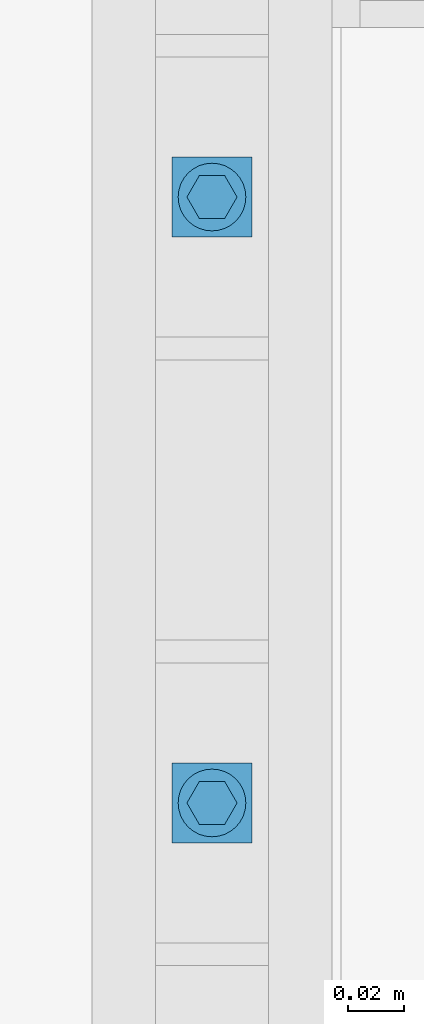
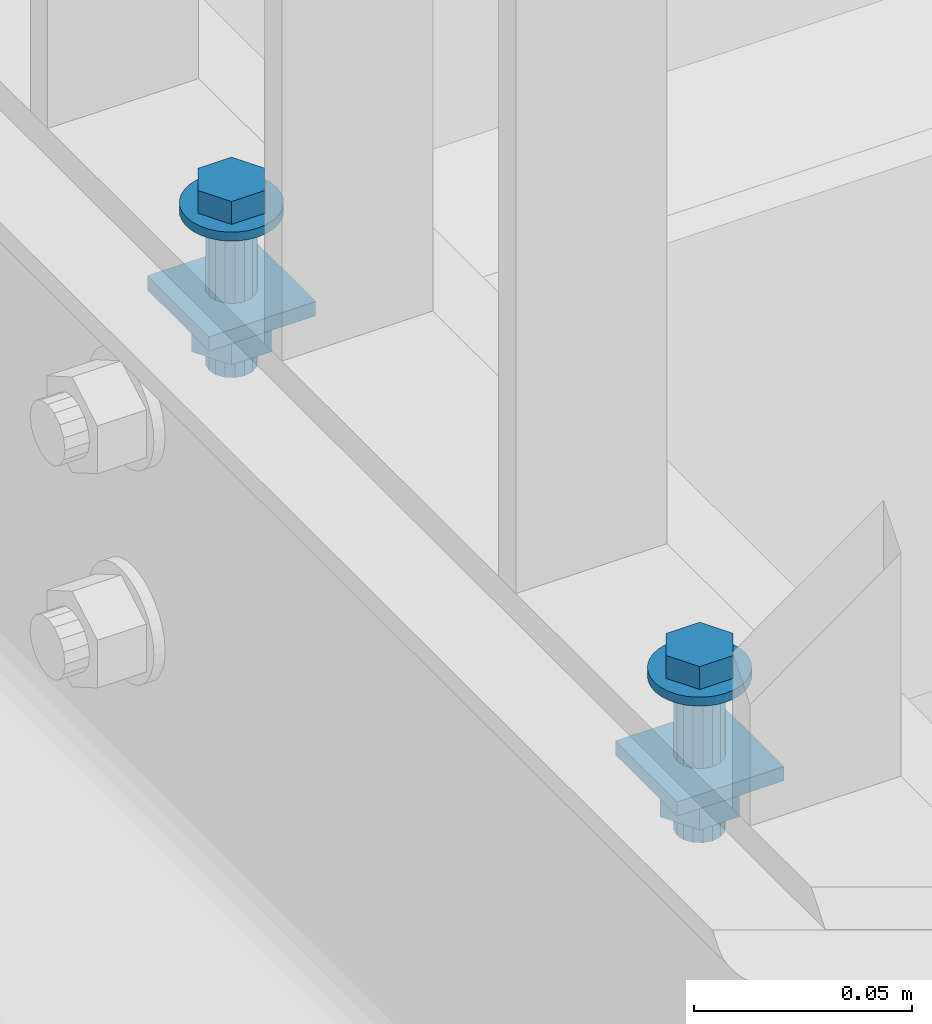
# One storey, part 65 of 145: 2 mechanical fasteners.
"""IFC2X3 building model written with IfcOpenShell, lengths in millimetres."""

from ifc_helpers import new_model, entity, si_unit, converted_unit, origin_with_axes, place, context, project, spatial, faceted_brep, element, save


model = new_model("IFC2X3")

# Units and contexts
model_context = context("Model", 3, precision=1e-09, world=origin_with_axes())
ifc_project = project(units=[si_unit("LENGTHUNIT", "METRE", prefix="MILLI"), si_unit("AREAUNIT", "SQUARE_METRE"), si_unit("VOLUMEUNIT", "CUBIC_METRE"), converted_unit("PLANEANGLEUNIT", "DEGREE", entity("IfcPlaneAngleMeasure", 0.01745329), si_unit("PLANEANGLEUNIT", "RADIAN"), dimensions=[0, 0, 0, 0, 0, 0, 0])], contexts=[model_context])

# Site, building, storey
site_placement = place(None, origin_with_axes())
site = spatial("IfcSite", under=ifc_project, at=site_placement, Name="BZ1 Grund- und Mittelschule 85716 Unterschlei?heim", CompositionType="ELEMENT")
building_placement = place(site_placement, origin_with_axes())
building = spatial("IfcBuilding", under=site, at=building_placement, Name="Struktur 1", CompositionType="ELEMENT")
storey_placement = place(building_placement, origin_with_axes())
storey = spatial("IfcBuildingStorey", under=building, at=storey_placement, Name="Default Storey", CompositionType="ELEMENT", Elevation=0.0)

# Mechanical fasteners
mechanical_fastener_1_placement = place(None, origin_with_axes())
element("IfcMechanicalFastener", 1, at=mechanical_fastener_1_placement, inside=storey, ObjectType="-", NominalDiameter=12.0, NominalLength=45.0, context=model_context, shape_type="Brep", body=[
    faceted_brep([(15728.34372732, -556.876484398, 3308.000000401), (15728.34372732, -556.876484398, 3310.500000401), (15726.002643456, -556.645907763, 3310.500000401), (15726.002643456, -556.645907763, 3308.000000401), (15723.751526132, -555.963038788, 3310.500000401), (15723.751526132, -555.963038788, 3308.000000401), (15721.676884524, -554.854119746, 3310.500000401), (15721.676884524, -554.854119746, 3308.000000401), (15719.858445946, -553.361765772, 3310.500000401), (15719.858445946, -553.361765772, 3308.000000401), (15718.366091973, -551.543327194, 3310.500000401), (15718.366091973, -551.543327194, 3308.000000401), (15717.25717293, -549.468685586, 3310.500000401), (15717.25717293, -549.468685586, 3308.000000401), (15716.574303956, -547.217568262, 3310.500000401), (15716.574303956, -547.217568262, 3308.000000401), (15716.34372732, -544.876484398, 3310.500000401), (15716.34372732, -544.876484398, 3308.000000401), (15716.574303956, -542.535400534, 3310.500000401), (15716.574303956, -542.535400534, 3308.000000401), (15717.25717293, -540.28428321, 3310.500000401), (15717.25717293, -540.28428321, 3308.000000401), (15718.366091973, -538.209641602, 3310.500000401), (15718.366091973, -538.209641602, 3308.000000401), (15719.858445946, -536.391203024, 3310.500000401), (15719.858445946, -536.391203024, 3308.000000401), (15721.676884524, -534.89884905, 3310.500000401), (15721.676884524, -534.89884905, 3308.000000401), (15723.751526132, -533.789930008, 3310.500000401), (15723.751526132, -533.789930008, 3308.000000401), (15726.002643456, -533.107061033, 3310.500000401), (15726.002643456, -533.107061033, 3308.000000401), (15728.34372732, -532.876484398, 3310.500000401), (15728.34372732, -532.876484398, 3308.000000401), (15730.684811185, -533.107061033, 3310.500000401), (15730.684811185, -533.107061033, 3308.000000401), (15732.935928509, -533.789930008, 3310.500000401), (15732.935928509, -533.789930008, 3308.000000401), (15735.010570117, -534.89884905, 3310.500000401), (15735.010570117, -534.89884905, 3308.000000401), (15736.829008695, -536.391203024, 3310.500000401), (15736.829008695, -536.391203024, 3308.000000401), (15738.321362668, -538.209641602, 3310.500000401), (15738.321362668, -538.209641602, 3308.000000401), (15739.430281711, -540.28428321, 3310.500000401), (15739.430281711, -540.28428321, 3308.000000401), (15740.113150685, -542.535400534, 3310.500000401), (15740.113150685, -542.535400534, 3308.000000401), (15740.34372732, -544.876484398, 3310.500000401), (15740.34372732, -544.876484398, 3308.000000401), (15740.113150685, -547.217568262, 3310.500000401), (15740.113150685, -547.217568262, 3308.000000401), (15739.430281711, -549.468685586, 3310.500000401), (15739.430281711, -549.468685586, 3308.000000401), (15738.321362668, -551.543327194, 3310.500000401), (15738.321362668, -551.543327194, 3308.000000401), (15736.829008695, -553.361765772, 3310.500000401), (15736.829008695, -553.361765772, 3308.000000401), (15735.010570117, -554.854119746, 3310.500000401), (15735.010570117, -554.854119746, 3308.000000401), (15732.935928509, -555.963038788, 3310.500000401), (15732.935928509, -555.963038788, 3308.000000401), (15730.684811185, -556.645907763, 3310.500000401), (15730.684811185, -556.645907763, 3308.000000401)], [[[0, 1, 2, 3]], [[3, 2, 4, 5]], [[5, 4, 6, 7]], [[7, 6, 8, 9]], [[9, 8, 10, 11]], [[11, 10, 12, 13]], [[13, 12, 14, 15]], [[15, 14, 16, 17]], [[17, 16, 18, 19]], [[19, 18, 20, 21]], [[21, 20, 22, 23]], [[23, 22, 24, 25]], [[25, 24, 26, 27]], [[27, 26, 28, 29]], [[29, 28, 30, 31]], [[31, 30, 32, 33]], [[33, 32, 34, 35]], [[35, 34, 36, 37]], [[37, 36, 38, 39]], [[39, 38, 40, 41]], [[41, 40, 42, 43]], [[43, 42, 44, 45]], [[45, 44, 46, 47]], [[47, 46, 48, 49]], [[49, 48, 50, 51]], [[51, 50, 52, 53]], [[53, 52, 54, 55]], [[55, 54, 56, 57]], [[57, 56, 58, 59]], [[59, 58, 60, 61]], [[61, 60, 62, 63]], [[63, 62, 1, 0]], [[2, 1, 62, 60, 58, 56, 54, 52, 50, 48, 46, 44, 42, 40, 38, 36, 34, 32, 30, 28, 26, 24, 22, 20, 18, 16, 14, 12, 10, 8, 6, 4]], [[63, 0, 3, 5, 7, 9, 11, 13, 15, 17, 19, 21, 23, 25, 27, 29, 31, 33, 35, 37, 39, 41, 43, 45, 47, 49, 51, 53, 55, 57, 59, 61]]]),
    faceted_brep([(15723.90122732, -537.181848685, 3316.900000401), (15723.90122732, -537.181848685, 3310.500000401), (15719.45872732, -544.876484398, 3310.500000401), (15719.45872732, -544.876484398, 3316.900000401), (15723.90122732, -552.571120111, 3310.500000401), (15723.90122732, -552.571120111, 3316.900000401), (15732.78622732, -552.571120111, 3310.500000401), (15732.78622732, -552.571120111, 3316.900000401), (15737.22872732, -544.876484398, 3310.500000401), (15737.22872732, -544.876484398, 3316.900000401), (15732.78622732, -537.181848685, 3310.500000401), (15732.78622732, -537.181848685, 3316.900000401)], [[[0, 1, 2, 3]], [[3, 2, 4, 5]], [[5, 4, 6, 7]], [[7, 6, 8, 9]], [[9, 8, 10, 11]], [[11, 10, 1, 0]], [[3, 5, 7, 9, 11, 0]], [[2, 1, 10, 8, 6, 4]]]),
    faceted_brep([(15728.34372732, -550.876484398, 3286.317178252), (15728.34372732, -550.876484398, 3308.000000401), (15726.047626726, -550.419761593, 3308.000000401), (15726.047626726, -550.419761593, 3286.317178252), (15724.101086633, -549.119125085, 3308.000000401), (15724.101086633, -549.119125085, 3286.317178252), (15722.800450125, -547.172584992, 3308.000000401), (15722.800450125, -547.172584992, 3286.317178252), (15722.34372732, -544.876484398, 3308.000000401), (15722.34372732, -544.876484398, 3286.317178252), (15722.800450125, -542.580383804, 3308.000000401), (15722.800450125, -542.580383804, 3286.317178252), (15724.101086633, -540.633843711, 3308.000000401), (15724.101086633, -540.633843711, 3286.317178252), (15726.047626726, -539.333207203, 3308.000000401), (15726.047626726, -539.333207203, 3286.317178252), (15728.34372732, -538.876484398, 3308.000000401), (15728.34372732, -538.876484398, 3286.317178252), (15730.639827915, -539.333207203, 3308.000000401), (15730.639827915, -539.333207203, 3286.317178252), (15732.586368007, -540.633843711, 3308.000000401), (15732.586368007, -540.633843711, 3286.317178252), (15733.887004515, -542.580383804, 3308.000000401), (15733.887004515, -542.580383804, 3286.317178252), (15734.34372732, -544.876484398, 3308.000000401), (15734.34372732, -544.876484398, 3286.317178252), (15733.887004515, -547.172584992, 3308.000000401), (15733.887004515, -547.172584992, 3286.317178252), (15732.586368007, -549.119125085, 3308.000000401), (15732.586368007, -549.119125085, 3286.317178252), (15730.639827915, -550.419761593, 3308.000000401), (15730.639827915, -550.419761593, 3286.317178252)], [[[0, 1, 2, 3]], [[3, 2, 4, 5]], [[5, 4, 6, 7]], [[7, 6, 8, 9]], [[9, 8, 10, 11]], [[11, 10, 12, 13]], [[13, 12, 14, 15]], [[15, 14, 16, 17]], [[17, 16, 18, 19]], [[19, 18, 20, 21]], [[21, 20, 22, 23]], [[23, 22, 24, 25]], [[25, 24, 26, 27]], [[27, 26, 28, 29]], [[29, 28, 30, 31]], [[31, 30, 1, 0]], [[2, 1, 30, 28, 26, 24, 22, 20, 18, 16, 14, 12, 10, 8, 6, 4]], [[31, 0, 3, 5, 7, 9, 11, 13, 15, 17, 19, 21, 23, 25, 27, 29]]]),
    faceted_brep([(15714.201591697, -530.734348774, 3286.317178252), (15714.201591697, -530.734348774, 3282.317178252), (15714.201591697, -559.018620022, 3282.317178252), (15714.201591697, -559.018620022, 3286.317178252), (15742.485862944, -559.018620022, 3282.317178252), (15742.485862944, -559.018620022, 3286.317178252), (15742.485862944, -530.734348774, 3282.317178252), (15742.485862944, -530.734348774, 3286.317178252)], [[[0, 1, 2, 3]], [[3, 2, 4, 5]], [[5, 4, 6, 7]], [[7, 6, 1, 0]], [[3, 5, 7, 0]], [[2, 1, 6, 4]]]),
    faceted_brep([(15723.06872732, -535.739916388, 3282.317178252), (15723.06872732, -535.739916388, 3272.317178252), (15717.79372732, -544.876484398, 3272.317178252), (15717.79372732, -544.876484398, 3282.317178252), (15723.06872732, -554.013052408, 3272.317178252), (15723.06872732, -554.013052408, 3282.317178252), (15733.61872732, -554.013052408, 3272.317178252), (15733.61872732, -554.013052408, 3282.317178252), (15738.89372732, -544.876484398, 3272.317178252), (15738.89372732, -544.876484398, 3282.317178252), (15733.61872732, -535.739916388, 3272.317178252), (15733.61872732, -535.739916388, 3282.317178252)], [[[0, 1, 2, 3]], [[3, 2, 4, 5]], [[5, 4, 6, 7]], [[7, 6, 8, 9]], [[9, 8, 10, 11]], [[11, 10, 1, 0]], [[3, 5, 7, 9, 11, 0]], [[2, 1, 10, 8, 6, 4]]]),
    faceted_brep([(15728.34372732, -550.876484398, 3265.500000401), (15728.34372732, -550.876484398, 3272.317178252), (15726.047626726, -550.419761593, 3272.317178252), (15726.047626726, -550.419761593, 3265.500000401), (15724.101086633, -549.119125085, 3272.317178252), (15724.101086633, -549.119125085, 3265.500000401), (15722.800450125, -547.172584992, 3272.317178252), (15722.800450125, -547.172584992, 3265.500000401), (15722.34372732, -544.876484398, 3272.317178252), (15722.34372732, -544.876484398, 3265.500000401), (15722.800450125, -542.580383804, 3272.317178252), (15722.800450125, -542.580383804, 3265.500000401), (15724.101086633, -540.633843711, 3272.317178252), (15724.101086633, -540.633843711, 3265.500000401), (15726.047626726, -539.333207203, 3272.317178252), (15726.047626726, -539.333207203, 3265.500000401), (15728.34372732, -538.876484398, 3272.317178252), (15728.34372732, -538.876484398, 3265.500000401), (15730.639827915, -539.333207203, 3272.317178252), (15730.639827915, -539.333207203, 3265.500000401), (15732.586368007, -540.633843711, 3272.317178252), (15732.586368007, -540.633843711, 3265.500000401), (15733.887004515, -542.580383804, 3272.317178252), (15733.887004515, -542.580383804, 3265.500000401), (15734.34372732, -544.876484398, 3272.317178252), (15734.34372732, -544.876484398, 3265.500000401), (15733.887004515, -547.172584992, 3272.317178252), (15733.887004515, -547.172584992, 3265.500000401), (15732.586368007, -549.119125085, 3272.317178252), (15732.586368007, -549.119125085, 3265.500000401), (15730.639827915, -550.419761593, 3272.317178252), (15730.639827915, -550.419761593, 3265.500000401)], [[[0, 1, 2, 3]], [[3, 2, 4, 5]], [[5, 4, 6, 7]], [[7, 6, 8, 9]], [[9, 8, 10, 11]], [[11, 10, 12, 13]], [[13, 12, 14, 15]], [[15, 14, 16, 17]], [[17, 16, 18, 19]], [[19, 18, 20, 21]], [[21, 20, 22, 23]], [[23, 22, 24, 25]], [[25, 24, 26, 27]], [[27, 26, 28, 29]], [[29, 28, 30, 31]], [[31, 30, 1, 0]], [[2, 1, 30, 28, 26, 24, 22, 20, 18, 16, 14, 12, 10, 8, 6, 4]], [[31, 0, 3, 5, 7, 9, 11, 13, 15, 17, 19, 21, 23, 25, 27, 29]]]),
])
mechanical_fastener_2_placement = place(None, origin_with_axes())
element("IfcMechanicalFastener", 2, at=mechanical_fastener_2_placement, inside=storey, ObjectType="-", NominalDiameter=12.0, NominalLength=45.0, context=model_context, shape_type="Brep", body=[
    faceted_brep([(15728.34372732, -342.093150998, 3308.000000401), (15728.34372732, -342.093150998, 3310.500000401), (15726.002643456, -341.862574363, 3310.500000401), (15726.002643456, -341.862574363, 3308.000000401), (15723.751526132, -341.179705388, 3310.500000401), (15723.751526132, -341.179705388, 3308.000000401), (15721.676884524, -340.070786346, 3310.500000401), (15721.676884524, -340.070786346, 3308.000000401), (15719.858445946, -338.578432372, 3310.500000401), (15719.858445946, -338.578432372, 3308.000000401), (15718.366091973, -336.759993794, 3310.500000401), (15718.366091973, -336.759993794, 3308.000000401), (15717.25717293, -334.685352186, 3310.500000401), (15717.25717293, -334.685352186, 3308.000000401), (15716.574303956, -332.434234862, 3310.500000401), (15716.574303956, -332.434234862, 3308.000000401), (15716.34372732, -330.093150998, 3310.500000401), (15716.34372732, -330.093150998, 3308.000000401), (15716.574303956, -327.752067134, 3310.500000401), (15716.574303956, -327.752067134, 3308.000000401), (15717.25717293, -325.50094981, 3310.500000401), (15717.25717293, -325.50094981, 3308.000000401), (15718.366091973, -323.426308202, 3310.500000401), (15718.366091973, -323.426308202, 3308.000000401), (15719.858445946, -321.607869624, 3310.500000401), (15719.858445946, -321.607869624, 3308.000000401), (15721.676884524, -320.11551565, 3310.500000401), (15721.676884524, -320.11551565, 3308.000000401), (15723.751526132, -319.006596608, 3310.500000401), (15723.751526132, -319.006596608, 3308.000000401), (15726.002643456, -318.323727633, 3310.500000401), (15726.002643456, -318.323727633, 3308.000000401), (15728.34372732, -318.093150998, 3310.500000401), (15728.34372732, -318.093150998, 3308.000000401), (15730.684811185, -318.323727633, 3310.500000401), (15730.684811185, -318.323727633, 3308.000000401), (15732.935928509, -319.006596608, 3310.500000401), (15732.935928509, -319.006596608, 3308.000000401), (15735.010570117, -320.11551565, 3310.500000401), (15735.010570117, -320.11551565, 3308.000000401), (15736.829008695, -321.607869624, 3310.500000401), (15736.829008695, -321.607869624, 3308.000000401), (15738.321362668, -323.426308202, 3310.500000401), (15738.321362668, -323.426308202, 3308.000000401), (15739.430281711, -325.50094981, 3310.500000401), (15739.430281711, -325.50094981, 3308.000000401), (15740.113150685, -327.752067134, 3310.500000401), (15740.113150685, -327.752067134, 3308.000000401), (15740.34372732, -330.093150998, 3310.500000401), (15740.34372732, -330.093150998, 3308.000000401), (15740.113150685, -332.434234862, 3310.500000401), (15740.113150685, -332.434234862, 3308.000000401), (15739.430281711, -334.685352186, 3310.500000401), (15739.430281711, -334.685352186, 3308.000000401), (15738.321362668, -336.759993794, 3310.500000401), (15738.321362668, -336.759993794, 3308.000000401), (15736.829008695, -338.578432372, 3310.500000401), (15736.829008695, -338.578432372, 3308.000000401), (15735.010570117, -340.070786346, 3310.500000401), (15735.010570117, -340.070786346, 3308.000000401), (15732.935928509, -341.179705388, 3310.500000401), (15732.935928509, -341.179705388, 3308.000000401), (15730.684811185, -341.862574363, 3310.500000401), (15730.684811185, -341.862574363, 3308.000000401)], [[[0, 1, 2, 3]], [[3, 2, 4, 5]], [[5, 4, 6, 7]], [[7, 6, 8, 9]], [[9, 8, 10, 11]], [[11, 10, 12, 13]], [[13, 12, 14, 15]], [[15, 14, 16, 17]], [[17, 16, 18, 19]], [[19, 18, 20, 21]], [[21, 20, 22, 23]], [[23, 22, 24, 25]], [[25, 24, 26, 27]], [[27, 26, 28, 29]], [[29, 28, 30, 31]], [[31, 30, 32, 33]], [[33, 32, 34, 35]], [[35, 34, 36, 37]], [[37, 36, 38, 39]], [[39, 38, 40, 41]], [[41, 40, 42, 43]], [[43, 42, 44, 45]], [[45, 44, 46, 47]], [[47, 46, 48, 49]], [[49, 48, 50, 51]], [[51, 50, 52, 53]], [[53, 52, 54, 55]], [[55, 54, 56, 57]], [[57, 56, 58, 59]], [[59, 58, 60, 61]], [[61, 60, 62, 63]], [[63, 62, 1, 0]], [[2, 1, 62, 60, 58, 56, 54, 52, 50, 48, 46, 44, 42, 40, 38, 36, 34, 32, 30, 28, 26, 24, 22, 20, 18, 16, 14, 12, 10, 8, 6, 4]], [[63, 0, 3, 5, 7, 9, 11, 13, 15, 17, 19, 21, 23, 25, 27, 29, 31, 33, 35, 37, 39, 41, 43, 45, 47, 49, 51, 53, 55, 57, 59, 61]]]),
    faceted_brep([(15723.90122732, -322.398515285, 3316.900000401), (15723.90122732, -322.398515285, 3310.500000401), (15719.45872732, -330.093150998, 3310.500000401), (15719.45872732, -330.093150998, 3316.900000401), (15723.90122732, -337.787786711, 3310.500000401), (15723.90122732, -337.787786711, 3316.900000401), (15732.78622732, -337.787786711, 3310.500000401), (15732.78622732, -337.787786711, 3316.900000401), (15737.22872732, -330.093150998, 3310.500000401), (15737.22872732, -330.093150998, 3316.900000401), (15732.78622732, -322.398515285, 3310.500000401), (15732.78622732, -322.398515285, 3316.900000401)], [[[0, 1, 2, 3]], [[3, 2, 4, 5]], [[5, 4, 6, 7]], [[7, 6, 8, 9]], [[9, 8, 10, 11]], [[11, 10, 1, 0]], [[3, 5, 7, 9, 11, 0]], [[2, 1, 10, 8, 6, 4]]]),
    faceted_brep([(15728.34372732, -336.093150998, 3286.317178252), (15728.34372732, -336.093150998, 3308.000000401), (15726.047626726, -335.636428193, 3308.000000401), (15726.047626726, -335.636428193, 3286.317178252), (15724.101086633, -334.335791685, 3308.000000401), (15724.101086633, -334.335791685, 3286.317178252), (15722.800450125, -332.389251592, 3308.000000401), (15722.800450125, -332.389251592, 3286.317178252), (15722.34372732, -330.093150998, 3308.000000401), (15722.34372732, -330.093150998, 3286.317178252), (15722.800450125, -327.797050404, 3308.000000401), (15722.800450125, -327.797050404, 3286.317178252), (15724.101086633, -325.850510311, 3308.000000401), (15724.101086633, -325.850510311, 3286.317178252), (15726.047626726, -324.549873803, 3308.000000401), (15726.047626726, -324.549873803, 3286.317178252), (15728.34372732, -324.093150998, 3308.000000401), (15728.34372732, -324.093150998, 3286.317178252), (15730.639827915, -324.549873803, 3308.000000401), (15730.639827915, -324.549873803, 3286.317178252), (15732.586368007, -325.850510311, 3308.000000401), (15732.586368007, -325.850510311, 3286.317178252), (15733.887004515, -327.797050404, 3308.000000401), (15733.887004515, -327.797050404, 3286.317178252), (15734.34372732, -330.093150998, 3308.000000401), (15734.34372732, -330.093150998, 3286.317178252), (15733.887004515, -332.389251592, 3308.000000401), (15733.887004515, -332.389251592, 3286.317178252), (15732.586368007, -334.335791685, 3308.000000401), (15732.586368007, -334.335791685, 3286.317178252), (15730.639827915, -335.636428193, 3308.000000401), (15730.639827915, -335.636428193, 3286.317178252)], [[[0, 1, 2, 3]], [[3, 2, 4, 5]], [[5, 4, 6, 7]], [[7, 6, 8, 9]], [[9, 8, 10, 11]], [[11, 10, 12, 13]], [[13, 12, 14, 15]], [[15, 14, 16, 17]], [[17, 16, 18, 19]], [[19, 18, 20, 21]], [[21, 20, 22, 23]], [[23, 22, 24, 25]], [[25, 24, 26, 27]], [[27, 26, 28, 29]], [[29, 28, 30, 31]], [[31, 30, 1, 0]], [[2, 1, 30, 28, 26, 24, 22, 20, 18, 16, 14, 12, 10, 8, 6, 4]], [[31, 0, 3, 5, 7, 9, 11, 13, 15, 17, 19, 21, 23, 25, 27, 29]]]),
    faceted_brep([(15714.201591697, -315.951015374, 3286.317178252), (15714.201591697, -315.951015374, 3282.317178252), (15714.201591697, -344.235286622, 3282.317178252), (15714.201591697, -344.235286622, 3286.317178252), (15742.485862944, -344.235286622, 3282.317178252), (15742.485862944, -344.235286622, 3286.317178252), (15742.485862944, -315.951015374, 3282.317178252), (15742.485862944, -315.951015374, 3286.317178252)], [[[0, 1, 2, 3]], [[3, 2, 4, 5]], [[5, 4, 6, 7]], [[7, 6, 1, 0]], [[3, 5, 7, 0]], [[2, 1, 6, 4]]]),
    faceted_brep([(15723.06872732, -320.956582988, 3282.317178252), (15723.06872732, -320.956582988, 3272.317178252), (15717.79372732, -330.093150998, 3272.317178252), (15717.79372732, -330.093150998, 3282.317178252), (15723.06872732, -339.229719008, 3272.317178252), (15723.06872732, -339.229719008, 3282.317178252), (15733.61872732, -339.229719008, 3272.317178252), (15733.61872732, -339.229719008, 3282.317178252), (15738.89372732, -330.093150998, 3272.317178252), (15738.89372732, -330.093150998, 3282.317178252), (15733.61872732, -320.956582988, 3272.317178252), (15733.61872732, -320.956582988, 3282.317178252)], [[[0, 1, 2, 3]], [[3, 2, 4, 5]], [[5, 4, 6, 7]], [[7, 6, 8, 9]], [[9, 8, 10, 11]], [[11, 10, 1, 0]], [[3, 5, 7, 9, 11, 0]], [[2, 1, 10, 8, 6, 4]]]),
    faceted_brep([(15728.34372732, -336.093150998, 3265.500000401), (15728.34372732, -336.093150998, 3272.317178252), (15726.047626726, -335.636428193, 3272.317178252), (15726.047626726, -335.636428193, 3265.500000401), (15724.101086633, -334.335791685, 3272.317178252), (15724.101086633, -334.335791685, 3265.500000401), (15722.800450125, -332.389251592, 3272.317178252), (15722.800450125, -332.389251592, 3265.500000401), (15722.34372732, -330.093150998, 3272.317178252), (15722.34372732, -330.093150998, 3265.500000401), (15722.800450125, -327.797050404, 3272.317178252), (15722.800450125, -327.797050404, 3265.500000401), (15724.101086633, -325.850510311, 3272.317178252), (15724.101086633, -325.850510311, 3265.500000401), (15726.047626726, -324.549873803, 3272.317178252), (15726.047626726, -324.549873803, 3265.500000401), (15728.34372732, -324.093150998, 3272.317178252), (15728.34372732, -324.093150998, 3265.500000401), (15730.639827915, -324.549873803, 3272.317178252), (15730.639827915, -324.549873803, 3265.500000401), (15732.586368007, -325.850510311, 3272.317178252), (15732.586368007, -325.850510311, 3265.500000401), (15733.887004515, -327.797050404, 3272.317178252), (15733.887004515, -327.797050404, 3265.500000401), (15734.34372732, -330.093150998, 3272.317178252), (15734.34372732, -330.093150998, 3265.500000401), (15733.887004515, -332.389251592, 3272.317178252), (15733.887004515, -332.389251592, 3265.500000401), (15732.586368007, -334.335791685, 3272.317178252), (15732.586368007, -334.335791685, 3265.500000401), (15730.639827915, -335.636428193, 3272.317178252), (15730.639827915, -335.636428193, 3265.500000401)], [[[0, 1, 2, 3]], [[3, 2, 4, 5]], [[5, 4, 6, 7]], [[7, 6, 8, 9]], [[9, 8, 10, 11]], [[11, 10, 12, 13]], [[13, 12, 14, 15]], [[15, 14, 16, 17]], [[17, 16, 18, 19]], [[19, 18, 20, 21]], [[21, 20, 22, 23]], [[23, 22, 24, 25]], [[25, 24, 26, 27]], [[27, 26, 28, 29]], [[29, 28, 30, 31]], [[31, 30, 1, 0]], [[2, 1, 30, 28, 26, 24, 22, 20, 18, 16, 14, 12, 10, 8, 6, 4]], [[31, 0, 3, 5, 7, 9, 11, 13, 15, 17, 19, 21, 23, 25, 27, 29]]]),
])

save(model, "model.ifc")
